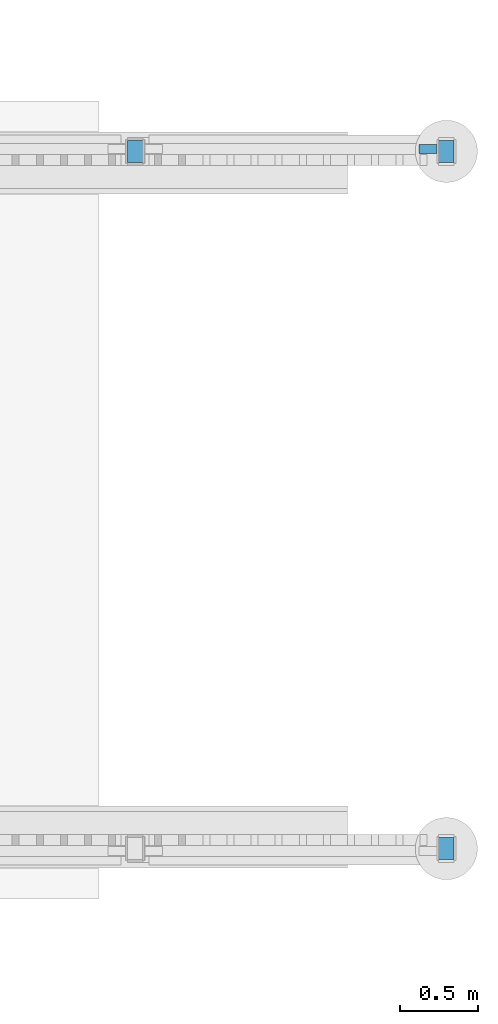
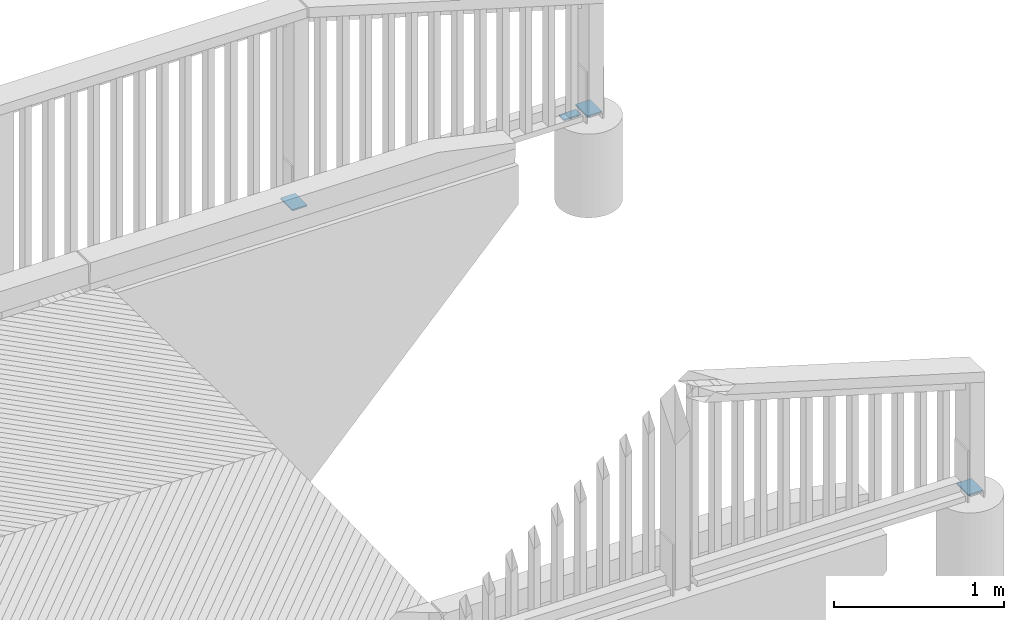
# One storey, part 51 of 53: 4 beams.
"""IFC2X3 building model written with IfcOpenShell, lengths in millimetres."""

from ifc_helpers import new_model, si_unit, frame, origin_with_axes, place, context, subcontext, project, spatial, faceted_brep, material, type_object, element, save


model = new_model("IFC2X3")

# Units and contexts
model_context = context("Model", 3, precision=1e-05, world=origin_with_axes())
body_context = subcontext(model_context, "Body", "Model", "MODEL_VIEW")
ifc_project = project(units=[si_unit("LENGTHUNIT", "METRE", prefix="MILLI"), si_unit("AREAUNIT", "SQUARE_METRE"), si_unit("VOLUMEUNIT", "CUBIC_METRE"), si_unit("MASSUNIT", "GRAM", prefix="KILO"), si_unit("TIMEUNIT", "SECOND"), si_unit("PLANEANGLEUNIT", "RADIAN"), si_unit("SOLIDANGLEUNIT", "STERADIAN"), si_unit("THERMODYNAMICTEMPERATUREUNIT", "DEGREE_CELSIUS"), si_unit("LUMINOUSINTENSITYUNIT", "LUMEN")], contexts=[model_context])

# Site, building, storey
site_placement = place(None, origin_with_axes())
site = spatial("IfcSite", under=ifc_project, at=site_placement, Name="Undefined", CompositionType="ELEMENT")
building_placement = place(site_placement, origin_with_axes())
building = spatial("IfcBuilding", under=site, at=building_placement, Name="Undefined", CompositionType="ELEMENT")
storey_placement = place(building_placement, origin_with_axes())
storey = spatial("IfcBuildingStorey", under=building, at=storey_placement, Name="Undefined", CompositionType="ELEMENT", Elevation=0.0)

# Beams
ifc_material = material(Name="STEEL/AISI316")
beam_type_1 = type_object("IfcBeamType", Name="PL60*10", PredefinedType="NOTDEFINED")
beam_placement = place(storey_placement, frame((19940.0034960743, 44620.0000002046, 3073.75999999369), z_axis=(0.000116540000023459, -0.999999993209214, 0.0), x_axis=(-0.999999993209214, -0.000116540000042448, 0.0)))
element("IfcBeam", 1, at=beam_placement, inside=storey, type_object=beam_type_1, material=ifc_material, Name="KAIDEPYLVÄS", ObjectType="PL60*10", context=body_context, shape_type="Brep", body=[
    faceted_brep([(0.0, 5.0, -29.9999999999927), (-3.63797880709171e-12, 5.0, 30.0), (115.000000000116, 5.0, 29.9999999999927), (115.00000000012, 5.0, -30.0), (-3.63797880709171e-12, -5.0, 30.0), (115.000000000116, -5.0, 29.9999999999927), (0.0, -5.0, -29.9999999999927), (115.00000000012, -5.0, -30.0)], [[[0, 1, 2, 3]], [[1, 4, 5, 2]], [[4, 6, 7, 5]], [[6, 0, 3, 7]], [[5, 7, 3, 2]], [[6, 4, 1, 0]]]),
])
beam_type_2 = type_object("IfcBeamType", Name="PL100*10", PredefinedType="NOTDEFINED")
for number, where, z_axis, x_axis in (
    (2, (19999.9999998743, 44674.9800000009, 3089.56000000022), (1.0, 0.0, 0.0), (0.0, -1.0, 0.0)),
    (3, (17999.9999998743, 44674.9800000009, 3117.67000000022), (1.0, 0.0, 0.0), (0.0, -1.0, 0.0)),
    (4, (19999.9999998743, 40055.02, 3089.56000000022), (1.0, 0.0, 0.0), (0.0, 1.0, 0.0)),
):
    element("IfcBeam", number, at=place(storey_placement, frame(where, z_axis=z_axis, x_axis=x_axis)), inside=storey, type_object=beam_type_2, material=ifc_material, Name="KAIDEPYLVÄS", ObjectType="PL100*10", context=body_context, shape_type="Brep", body=[
        faceted_brep([(0.0, 5.0, -50.0), (0.0, 5.0, 50.0), (140.0, 5.0, 50.0), (140.0, 5.0, -50.0), (0.0, -5.0, 50.0), (140.0, -5.0, 50.0), (0.0, -5.0, -50.0), (140.0, -5.0, -50.0)], [[[0, 1, 2, 3]], [[1, 4, 5, 2]], [[4, 6, 7, 5]], [[6, 0, 3, 7]], [[5, 7, 3, 2]], [[6, 4, 1, 0]]]),
    ])

save(model, "model.ifc")
